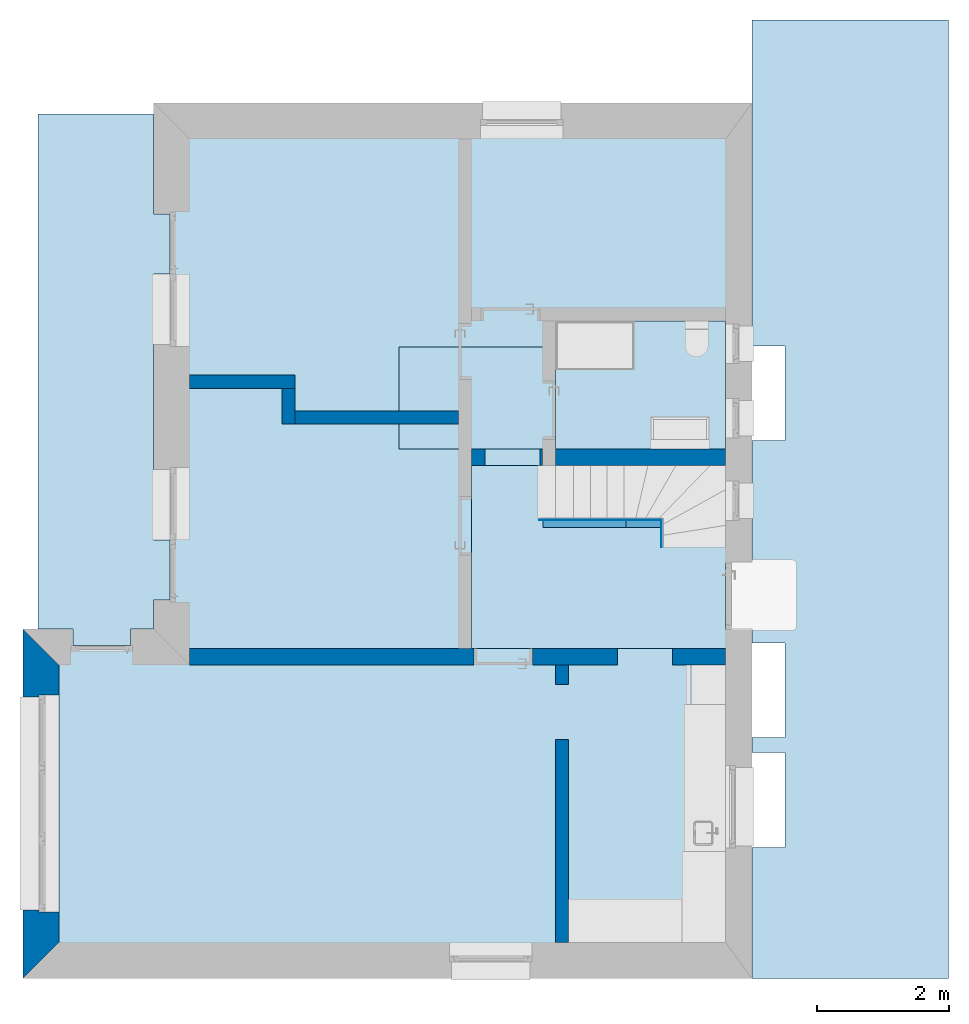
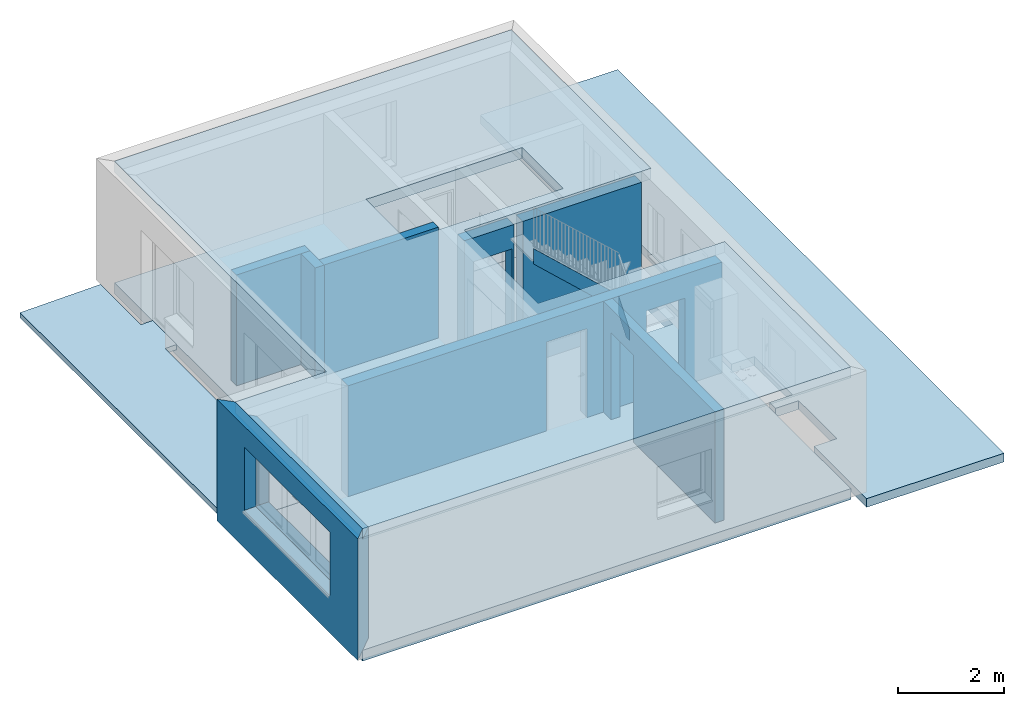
# One storey, part 1 of 18: 9 walls, 5 slabs, 2 members, 8 openings, 1 element without a shape of its own.
"""IFC2X3 building model written with IfcOpenShell, lengths in metres."""

from ifc_helpers import new_model, entity, si_unit, converted_unit, derived_unit, direction, frame, frame_2d, origin, place, context, subcontext, project, spatial, polyline, rectangle, outline, extrude, boolean, clip, halfspace, bounded_halfspace, faceted_brep, material, layer, layer_set, layer_usage, type_object, element, aggregate, save


model = new_model("IFC2X3")

# Units and contexts
model_context = context("Model", 3, precision=1e-05, world=origin(), true_north=direction((6.123233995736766e-17, 1.0)))
body_context = subcontext(model_context, "Body", "Model", "MODEL_VIEW")
ifc_project = project(units=[si_unit("LENGTHUNIT", "METRE"), si_unit("AREAUNIT", "SQUARE_METRE"), si_unit("VOLUMEUNIT", "CUBIC_METRE"), si_unit("POWERUNIT", "WATT"), derived_unit("USERDEFINED", [(si_unit("MASSUNIT", "GRAM", prefix="KILO"), 1), (si_unit("TIMEUNIT", "SECOND"), -3)]), derived_unit("THERMALRESISTANCEUNIT", [(si_unit("MASSUNIT", "GRAM", prefix="KILO"), -1), (si_unit("TIMEUNIT", "SECOND"), 3), (si_unit("THERMODYNAMICTEMPERATUREUNIT", "KELVIN"), 1)]), derived_unit("USERDEFINED", [(si_unit("MASSUNIT", "GRAM", prefix="KILO"), 1), (si_unit("TIMEUNIT", "SECOND"), -2), (si_unit("THERMODYNAMICTEMPERATUREUNIT", "KELVIN"), -1)]), derived_unit("THERMALTRANSMITTANCEUNIT", [(si_unit("MASSUNIT", "GRAM", prefix="KILO"), 1), (si_unit("TIMEUNIT", "SECOND"), -3), (si_unit("THERMODYNAMICTEMPERATUREUNIT", "KELVIN"), -1)]), converted_unit("PLANEANGLEUNIT", "DEGREE", entity("IfcPlaneAngleMeasure", 0.017453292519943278), si_unit("PLANEANGLEUNIT", "RADIAN"), dimensions=[0, 0, 0, 0, 0, 0, 0]), derived_unit("MOMENTOFINERTIAUNIT", [(si_unit("LENGTHUNIT", "METRE"), 4)])], contexts=[model_context])

# Site, building, storey
site_placement = place(None, origin())
site = spatial("IfcSite", under=ifc_project, at=site_placement, Name="Default", CompositionType="ELEMENT")
building_placement = place(site_placement, origin())
building = spatial("IfcBuilding", under=site, at=building_placement, CompositionType="ELEMENT")
storey_placement = place(building_placement, frame((0.0, 0.0, 2.6)))
storey = spatial("IfcBuildingStorey", under=building, at=storey_placement, Name="Erdgeschoss", CompositionType="ELEMENT", Elevation=2.6)

# Stair, members
type_product = type_object("IfcTypeProduct", Name="Zusammengebaute Treppe:Wangen Stahl - Stufen Holz - 1 Stockwerkstrennlinie")
stair_placement = place(storey_placement, origin())
stair = element("IfcStair", 1, at=stair_placement, inside=storey, type_object=type_product, Name="Zusammengebaute Treppe:Treppe", ObjectType="Zusammengebaute Treppe:Wangen Stahl - Stufen Holz - 1 Stockwerkstrennlinie", ShapeType="NOTDEFINED")
ifc_material_1 = material(Name="<Unnamed>")
member_type = type_object("IfcMemberType", Name="Wange:Metall 10 x 260", PredefinedType="STRINGER")
member_1_placement = place(stair_placement, frame((37.24672000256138, 21.842272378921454, 0.0)))
member_1 = element("IfcMember", 2, at=member_1_placement, type_object=member_type, material=ifc_material_1, Name="Zusammengebaute Treppe:Treppe:2594539 Stringer 1", ObjectType="Wange:Metall 10 x 260", context=body_context, shape_type="SweptSolid", body=[
    extrude(outline(polyline([(-0.19037166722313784, -0.2782247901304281), (-0.058513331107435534, -0.2782247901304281), (0.21962833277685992, 0.07886854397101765), (0.21962833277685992, 0.501980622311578), (-0.19037166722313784, -0.024399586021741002), (-0.19037166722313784, -0.2782247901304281)])), frame((0.0, 0.1903716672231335, 0.2782247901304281), z_axis=(1.0, 0.0, 0.0), x_axis=(0.0, 1.0, 0.0)), (0.0, 0.0, 1.0), 0.010000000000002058),
])
member_2_placement = place(stair_placement, frame((35.398754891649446, 22.252272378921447, 0.4384040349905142)))
member_2 = element("IfcMember", 3, at=member_2_placement, type_object=member_type, material=ifc_material_1, Name="Zusammengebaute Treppe:Treppe:2594539 Stringer 2", ObjectType="Wange:Metall 10 x 260", context=body_context, shape_type="SweptSolid", body=[
    extrude(outline(polyline([(-1.386420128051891, -0.12999999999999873), (1.1456817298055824, -0.12999999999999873), (1.3864201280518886, 0.13000000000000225), (-1.1456817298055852, 0.13000000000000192), (-1.386420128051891, -0.12999999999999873)])), frame((0.928982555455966, 0.0, 1.0373293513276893), z_axis=(0.0, 1.0, 0.0), x_axis=(-0.7337639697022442, 0.0, 0.6794044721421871)), (0.0, 0.0, 1.0), 0.010000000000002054),
])
aggregate(stair, [member_1, member_2])

# Slab, openings
ifc_material_2 = material(Name="Fußboden - Parkett Roteiche")
ifc_layer_1 = layer(ifc_material_2, 0.05)
ifc_material_3 = material(Name="Ortbeton - bewehrt")
ifc_layer_2 = layer(ifc_material_3, 0.2)
ifc_layer_set_1 = layer_set([ifc_layer_1, ifc_layer_2], Name="Geschossdecke:Geschossdecke 200 + 50")
ifc_layer_usage_1 = layer_usage(ifc_layer_set_1, "AXIS3", "POSITIVE", 0.0)
slab_type_1 = type_object("IfcSlabType", Name="Geschossdecke:Geschossdecke 200 + 50", PredefinedType="FLOOR", material=ifc_layer_set_1)
slab_1_placement = place(storey_placement, frame((27.800841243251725, 15.542272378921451, -0.25)))
slab_1 = element("IfcSlab", 4, at=slab_1_placement, inside=storey, type_object=slab_type_1, material=ifc_layer_usage_1, Name="Geschossdecke:Geschossdecke 200 + 50", ObjectType="Geschossdecke:Geschossdecke 200 + 50", PredefinedType="FLOOR", context=body_context, shape_type="SweptSolid", body=[
    extrude(outline(polyline([(3.327060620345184, 6.400000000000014), (-5.312939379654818, 6.3999999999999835), (-5.3129393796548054, -0.33500000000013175), (-5.112939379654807, -0.33500000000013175), (-5.112939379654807, -1.3450000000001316), (-5.31293937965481, -1.3450000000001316), (-5.312939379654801, -6.400000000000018), (5.31293937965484, -6.3999999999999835), (5.312939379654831, -1.5899999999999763), (3.327060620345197, -1.589999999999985), (3.327060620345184, 6.400000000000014)])), frame((5.31293937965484, 6.400000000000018, 0.25), z_axis=(0.0, 0.0, -1.0), x_axis=(-1.0, 0.0, 0.0)), (0.0, 0.0, 1.0), 0.25),
])
opening_1_placement = place(slab_1_placement, origin())
element("IfcOpeningElement", 5, at=opening_1_placement, cuts=slab_1, Name="Geschossdecke:Geschossdecke 200 + 50", ObjectType="Opening", context=body_context, shape_type="SweptSolid", body=[
    extrude(outline(polyline([(-2.3429393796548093, 0.19999999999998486), (-2.3429393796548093, 1.1399999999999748), (-5.1129393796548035, 1.1399999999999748), (-5.1129393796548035, -0.04000000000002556), (-4.142939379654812, -0.04000000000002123), (-4.142939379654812, 0.19999999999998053), (-2.3429393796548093, 0.19999999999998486)])), frame((5.31293937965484, 6.400000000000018, 0.25), z_axis=(0.0, 0.0, -1.0), x_axis=(-1.0, 0.0, 0.0)), (0.0, 0.0, 1.0), 0.25),
])
opening_2_placement = place(slab_1_placement, origin())
element("IfcOpeningElement", 6, at=opening_2_placement, cuts=slab_1, Name="Geschossdecke:Geschossdecke 200 + 50", ObjectType="Opening", context=body_context, shape_type="SweptSolid", body=[
    extrude(rectangle(XDim=1.9500000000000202, YDim=2.582965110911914, at=frame_2d((-3.8214568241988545, 2.3649999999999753), x_axis=(0.0, -1.0))), frame((5.31293937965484, 6.400000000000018, 0.25), z_axis=(0.0, 0.0, -1.0), x_axis=(-1.0, 0.0, 0.0)), (0.0, 0.0, 1.0), 0.25),
])

# Slab, opening
ifc_layer_usage_2 = layer_usage(ifc_layer_set_1, "AXIS3", "POSITIVE", 0.0)
slab_2_placement = place(storey_placement, origin())
slab_2 = element("IfcSlab", 7, at=slab_2_placement, inside=storey, type_object=slab_type_1, material=ifc_layer_usage_2, Name="Geschossdecke:Geschossdecke 200 + 50", ObjectType="Geschossdecke:Geschossdecke 200 + 50", PredefinedType="FLOOR", context=body_context, shape_type="CSG", body=[
    boolean("DIFFERENCE", extrude(outline(polyline([(-5.981999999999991, -5.961109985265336), (-1.1719999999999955, -5.961109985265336), (-1.1719999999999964, -3.9752312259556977), (6.818000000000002, -3.9752312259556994), (6.817999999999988, 4.664768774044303), (1.5579999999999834, 4.664768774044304), (1.557999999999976, 0.6068036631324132), (-1.222000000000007, 0.6068036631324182), (-1.2219999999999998, 4.664768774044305), (-5.982000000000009, 4.664768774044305), (-5.981999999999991, -5.961109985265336)])), frame((33.76195122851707, 21.52427237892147, 2.800000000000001), z_axis=(0.0, 0.0, -1.0), x_axis=(0.0, 1.0, 0.0)), (0.0, 0.0, 1.0), 0.24999999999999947), extrude(rectangle(XDim=1.5500000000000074, YDim=3.3999999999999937, at=frame_2d((2.1649348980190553e-15, -2.220446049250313e-15), x_axis=(1.0, 0.0))), frame((34.96526057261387, 24.10727237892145, 2.5500000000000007), z_axis=(0.0, 0.0, 1.0), x_axis=(0.0, 1.0, 0.0)), (0.0, 0.0, 1.0), 0.24999999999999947)),
])
opening_3_placement = place(slab_2_placement, origin())
element("IfcOpeningElement", 8, at=opening_3_placement, cuts=slab_2, Name="Geschossdecke:Geschossdecke 200 + 50", ObjectType="Opening", context=body_context, shape_type="SweptSolid", body=[
    extrude(rectangle(XDim=1.5500000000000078, YDim=3.3999999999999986, at=frame_2d((34.96526057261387, 24.10727237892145), x_axis=(0.0, -1.0))), frame((0.0, 0.0, 2.8000000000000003)), (0.0, 0.0, -1.0), 0.24999999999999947),
])

# Slabs
ifc_material_4 = material(Name="Fußboden - Granit grau 500 x 500")
ifc_layer_3 = layer(ifc_material_4, 0.04)
ifc_layer_4 = layer(ifc_material_3, 0.08)
ifc_layer_set_2 = layer_set([ifc_layer_3, ifc_layer_4], Name="Geschossdecke:STB & Granite 120")
ifc_layer_usage_3 = layer_usage(ifc_layer_set_2, "AXIS3", "POSITIVE", 0.0)
slab_type_2 = type_object("IfcSlabType", Name="Geschossdecke:STB & Granite 120", PredefinedType="FLOOR", material=ifc_layer_set_2)
slab_3_placement = place(storey_placement, origin())
element("IfcSlab", 9, at=slab_3_placement, inside=storey, type_object=slab_type_2, material=ifc_layer_usage_3, Name="Geschossdecke:STB & Granite 120", ObjectType="Geschossdecke:STB & Granite 120", PredefinedType="FLOOR", context=body_context, shape_type="Clipping", body=[
    clip(clip(extrude(outline(polyline([(-2.631838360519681, -1.4007099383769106), (5.192868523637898, -1.4007099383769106), (5.192868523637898, 0.35324322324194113), (3.6681616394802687, 0.3532432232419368), (3.6681616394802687, 0.603298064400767), (2.758161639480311, 0.603298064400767), (2.758161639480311, 0.3532432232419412), (-1.2818383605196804, 0.3532432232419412), (-1.2818383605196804, 0.6032980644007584), (-2.191838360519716, 0.6032980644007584), (-2.191838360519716, 0.3532432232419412), (-2.631838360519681, 0.3532432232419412), (-2.631838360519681, 0.0072885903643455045), (-2.8818383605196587, 0.0072885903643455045), (-2.8818383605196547, -0.8729044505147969), (-2.631838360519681, -0.8729044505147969), (-2.631838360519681, -1.4007099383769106)])), frame((29.183554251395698, 23.234110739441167, -0.007397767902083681), z_axis=(0.020942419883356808, 0.0, -0.9997806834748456), x_axis=(0.0, 1.0, 0.0)), (0.0, -0.020942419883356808, 0.9997806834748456), 0.12005265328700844), halfspace(frame((27.78315151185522, 25.876634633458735, -0.1567583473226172), z_axis=(0.020942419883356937, 0.0, -0.9997806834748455), x_axis=(0.9997806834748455, 0.0, 0.020942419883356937)), False)), halfspace(frame((27.78315151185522, 25.876634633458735, -0.03673202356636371), z_axis=(-0.020942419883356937, 0.0, 0.9997806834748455), x_axis=(-0.9997806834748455, 0.0, -0.020942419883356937)), False)),
])
ifc_material_5 = material(Name="Mauerwerk - Kalksandstein")
ifc_layer_5 = layer(ifc_material_5, 0.2)
ifc_layer_set_3 = layer_set([ifc_layer_5], Name="Geschossdecke:FB Hof")
ifc_layer_usage_4 = layer_usage(ifc_layer_set_3, "AXIS3", "POSITIVE", 0.0)
slab_type_3 = type_object("IfcSlabType", Name="Geschossdecke:FB Hof", PredefinedType="FLOOR", material=ifc_layer_set_3)
slab_4_placement = place(storey_placement, origin())
element("IfcSlab", 10, at=slab_4_placement, inside=storey, type_object=slab_type_3, material=ifc_layer_usage_4, Name="Geschossdecke:FB Hof", ObjectType="Geschossdecke:FB Hof", PredefinedType="FLOOR", context=body_context, shape_type="SweptSolid", body=[
    extrude(outline(polyline([(-5.815, -0.5611437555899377), (-3.825000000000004, -0.5611437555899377), (-3.8250000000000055, -0.06114375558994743), (-2.3850000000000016, -0.06114375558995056), (-2.3850000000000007, -0.5611437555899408), (-2.1550000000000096, -0.5611437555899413), (-2.1550000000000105, -0.06114375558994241), (-0.7150000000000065, -0.06114375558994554), (-0.7150000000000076, -0.5611437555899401), (2.3549999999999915, -0.5611437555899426), (2.354999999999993, -0.06114375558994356), (3.7949999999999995, -0.06114375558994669), (3.794999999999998, -0.5611437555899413), (8.745, -0.5611437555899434), (8.744999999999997, 2.428006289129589), (-5.815000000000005, 2.428006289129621), (-5.815, -0.5611437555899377)])), frame((39.187863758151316, 21.10727237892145, -0.1492131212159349), z_axis=(0.0, 0.0, -1.0), x_axis=(0.0, 1.0, 0.0)), (0.0, 0.0, 1.0), 0.2),
])
ifc_material_6 = material(Name="Fußboden - Fliese Travertin 500 x 500")
ifc_layer_6 = layer(ifc_material_6, 0.05)
ifc_layer_7 = layer(ifc_material_3, 0.2)
ifc_layer_set_4 = layer_set([ifc_layer_6, ifc_layer_7], Name="Geschossdecke:Geschossdecke 200 + 50 Bad")
ifc_layer_usage_5 = layer_usage(ifc_layer_set_4, "AXIS3", "POSITIVE", 0.0)
slab_type_4 = type_object("IfcSlabType", Name="Geschossdecke:Geschossdecke 200 + 50 Bad", PredefinedType="FLOOR", material=ifc_layer_set_4)
slab_5_placement = place(storey_placement, origin())
element("IfcSlab", 11, at=slab_5_placement, inside=storey, type_object=slab_type_4, material=ifc_layer_usage_5, Name="Geschossdecke:Geschossdecke 200 + 50 Bad", ObjectType="Geschossdecke:Geschossdecke 200 + 50 Bad", PredefinedType="FLOOR", context=body_context, shape_type="SweptSolid", body=[
    extrude(rectangle(XDim=1.9500000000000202, YDim=2.5829651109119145, at=frame_2d((-2.1649348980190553e-15, 0.0), x_axis=(1.0, 0.0))), frame((36.93523744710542, 24.307272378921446, 0.0), z_axis=(0.0, 0.0, -1.0), x_axis=(0.0, 1.0, 0.0)), (0.0, 0.0, 1.0), 0.25),
])

# Wall, opening
ifc_material_7 = material(Name="Dämmung - hart")
ifc_layer_8 = layer(ifc_material_7, 0.24999999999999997)
ifc_material_8 = material(Name="Mauerwerk - Ziegel")
ifc_layer_9 = layer(ifc_material_8, 0.29999999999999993)
ifc_layer_set_5 = layer_set([ifc_layer_8, ifc_layer_9], Name="Basiswand:Ziegel+WD hart 300+250")
ifc_layer_usage_6 = layer_usage(ifc_layer_set_5, "AXIS2", "POSITIVE", -0.27499999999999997)
wall_type_1 = type_object("IfcWallType", Name="Basiswand:Ziegel+WD hart 300+250", PredefinedType="STANDARD", material=ifc_layer_set_5)
wall_1_placement = place(storey_placement, frame((27.825841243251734, 20.60227237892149, 0.0), z_axis=(0.0, 0.0, 1.0), x_axis=(0.0, -1.0, 0.0)))
wall_1 = element("IfcWallStandardCase", 12, at=wall_1_placement, inside=storey, type_object=wall_type_1, material=ifc_layer_usage_6, Name="Basiswand:Ziegel+WD hart 300+250", ObjectType="Basiswand:Ziegel+WD hart 300+250", context=body_context, shape_type="Clipping", body=[
    clip(clip(extrude(outline(polyline([(5.310000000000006, -0.27500000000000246), (4.760000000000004, 0.2749999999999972), (0.5500000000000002, 0.274999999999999), (0.0, -0.27500000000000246), (5.310000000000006, -0.27500000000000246)])), origin(), (0.0, 0.0, 1.0), 2.8000000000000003), bounded_halfspace(frame((0.25000000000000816, -0.025000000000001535, 2.5500000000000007), z_axis=(0.0, 0.0, -1.0), x_axis=(-1.0, 0.0, 0.0)), True, frame((0.25000000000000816, -0.025000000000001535, 2.5500000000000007), z_axis=(0.0, 0.0, -1.0), x_axis=(-1.0, 0.0, 0.0)), polyline([(0.0, 0.0), (-0.29999999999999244, 0.30000000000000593), (-4.509999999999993, 0.29999999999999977), (-4.809999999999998, 0.0), (0.0, 0.0)]))), bounded_halfspace(frame((5.060000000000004, -0.025000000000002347, 2.5500000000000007), z_axis=(0.0, -1.0, 0.0), x_axis=(0.0, 0.0, 1.0)), True, frame((5.060000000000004, -0.025000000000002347, 2.5500000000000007), z_axis=(0.0, -1.0, 0.0), x_axis=(0.0, 0.0, 1.0)), polyline([(0.0, 0.0), (0.24999999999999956, 0.0), (0.24999999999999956, 4.810000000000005), (0.0, 4.810000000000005), (0.0, 0.0)]))),
])
opening_4_placement = place(wall_1_placement, frame((20.602272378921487, -27.825841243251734, 0.8500000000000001), z_axis=(0.0, 0.0, 1.0), x_axis=(0.0, 1.0, 0.0)))
element("IfcOpeningElement", 13, at=opening_4_placement, cuts=wall_1, Name="Basiswand:Ziegel+WD hart 300+250", ObjectType="Opening", context=body_context, shape_type="Brep", body=[
    faceted_brep([(27.8008412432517, 16.29977237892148, 1.4999999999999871), (28.100841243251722, 16.29977237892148, 1.4999999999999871), (28.100841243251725, 19.59977237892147, 1.4999999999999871), (27.800841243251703, 19.59977237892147, 1.4999999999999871), (27.8008412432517, 16.29977237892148, 0.0), (27.800841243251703, 19.59977237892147, 0.0), (28.100841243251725, 19.59977237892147, 0.0), (28.100841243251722, 16.29977237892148, 0.0), (27.800841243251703, 19.569772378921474, 1.4700000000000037), (27.8008412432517, 16.329772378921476, 1.4700000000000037), (27.8008412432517, 16.329772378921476, 0.020000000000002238), (27.800841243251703, 19.569772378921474, 0.020000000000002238), (27.53084124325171, 19.56977237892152, 1.469999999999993), (27.53084124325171, 19.56977237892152, 0.009999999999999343), (27.530841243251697, 16.32977237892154, 0.009999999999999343), (27.5308412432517, 16.32977237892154, 1.469999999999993)], [[[0, 1, 2, 3]], [[4, 5, 6, 7]], [[0, 4, 7, 1]], [[1, 7, 6, 2]], [[2, 6, 5, 3]], [[3, 5, 4, 0], [8, 9, 10, 11]], [[12, 13, 14, 15]], [[12, 8, 11, 13]], [[13, 11, 10, 14]], [[14, 10, 9, 15]], [[15, 9, 8, 12]]]),
])

ifc_layer_10 = layer(ifc_material_8, 0.2)
ifc_layer_set_6 = layer_set([ifc_layer_10], Name="Basiswand:Ziegel 200")
ifc_layer_usage_7 = layer_usage(ifc_layer_set_6, "AXIS2", "NEGATIVE", 0.1)
wall_type_2 = type_object("IfcWallType", Name="Basiswand:Ziegel 200", PredefinedType="STANDARD", material=ifc_layer_set_6)
wall_2_placement = place(storey_placement, frame((35.743754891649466, 20.05227237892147, 0.0), z_axis=(0.0, 0.0, 1.0), x_axis=(0.0, -1.0, 0.0)))
wall_2 = element("IfcWallStandardCase", 14, at=wall_2_placement, inside=storey, type_object=wall_type_2, material=ifc_layer_usage_7, Name="Basiswand:Ziegel 200", ObjectType="Basiswand:Ziegel 200", context=body_context, shape_type="SweptSolid", body=[
    extrude(rectangle(XDim=4.210000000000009, YDim=0.19999999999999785, at=frame_2d((2.1050000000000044, -6.938893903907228e-18), x_axis=(-1.0, 0.0))), origin(), (0.0, 0.0, 1.0), 2.5500000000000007),
])
opening_5_placement = place(wall_2_placement, frame((20.052272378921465, -35.743754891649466, 0.0), z_axis=(0.0, 0.0, 1.0), x_axis=(0.0, 1.0, 0.0)))
element("IfcOpeningElement", 15, at=opening_5_placement, cuts=wall_2, Name="Basiswand:Ziegel 200", ObjectType="Opening", context=body_context, shape_type="SweptSolid", body=[
    extrude(rectangle(XDim=2.179999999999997, YDim=0.8399999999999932, at=frame_2d((1.0824674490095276e-15, -1.1102230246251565e-16), x_axis=(0.0, 1.0))), frame((34.119754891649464, 19.342272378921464, 0.9100000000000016), z_axis=(1.0, 0.0, 0.0), x_axis=(0.0, 1.0, 0.0)), (0.0, 0.0, 1.0), 3.048),
])

# Walls
ifc_layer_usage_8 = layer_usage(ifc_layer_set_6, "AXIS2", "POSITIVE", -0.1)
wall_3_placement = place(storey_placement, frame((30.08672000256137, 24.356634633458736, 0.0)))
element("IfcWallStandardCase", 16, at=wall_3_placement, inside=storey, type_object=wall_type_2, material=ifc_layer_usage_8, Name="Basiswand:Ziegel 200", ObjectType="Basiswand:Ziegel 200", context=body_context, shape_type="SweptSolid", body=[
    extrude(rectangle(XDim=1.6000000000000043, YDim=0.19999999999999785, at=frame_2d((0.8000000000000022, 2.983724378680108e-16), x_axis=(-1.0, 0.0))), origin(), (0.0, 0.0, 1.0), 2.5500000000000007),
])
ifc_layer_usage_9 = layer_usage(ifc_layer_set_6, "AXIS2", "NEGATIVE", 0.1)
wall_4_placement = place(storey_placement, frame((31.586720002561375, 24.256634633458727, 0.0), z_axis=(0.0, 0.0, 1.0), x_axis=(0.0, -1.0, 0.0)))
element("IfcWallStandardCase", 17, at=wall_4_placement, inside=storey, type_object=wall_type_2, material=ifc_layer_usage_9, Name="Basiswand:Ziegel 200", ObjectType="Basiswand:Ziegel 200", context=body_context, shape_type="SweptSolid", body=[
    extrude(rectangle(XDim=0.5400000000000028, YDim=0.19999999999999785, at=frame_2d((0.2700000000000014, 0.0), x_axis=(-1.0, 0.0))), origin(), (0.0, 0.0, 1.0), 2.5500000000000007),
])
ifc_layer_usage_10 = layer_usage(ifc_layer_set_6, "AXIS2", "NEGATIVE", 0.1)
wall_5_placement = place(storey_placement, frame((31.686720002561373, 23.81663463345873, 0.0)))
element("IfcWallStandardCase", 18, at=wall_5_placement, inside=storey, type_object=wall_type_2, material=ifc_layer_usage_10, Name="Basiswand:Ziegel 200", ObjectType="Basiswand:Ziegel 200", context=body_context, shape_type="SweptSolid", body=[
    extrude(rectangle(XDim=2.482034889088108, YDim=0.19999999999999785, at=frame_2d((1.241017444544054, -2.7755575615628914e-17), x_axis=(-1.0, 0.0))), origin(), (0.0, 0.0, 1.0), 2.5500000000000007),
])

# Wall, openings
ifc_layer_11 = layer(ifc_material_8, 0.24999999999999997)
ifc_layer_set_7 = layer_set([ifc_layer_11], Name="Basiswand:Ziegel 250")
ifc_layer_usage_11 = layer_usage(ifc_layer_set_7, "AXIS2", "POSITIVE", -0.12499999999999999)
wall_type_3 = type_object("IfcWallType", Name="Basiswand:Ziegel 250", PredefinedType="STANDARD", material=ifc_layer_set_7)
wall_6_placement = place(storey_placement, frame((30.086720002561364, 20.177272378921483, 0.0)))
wall_6 = element("IfcWallStandardCase", 19, at=wall_6_placement, inside=storey, type_object=wall_type_3, material=ifc_layer_usage_11, Name="Basiswand:Ziegel 250", ObjectType="Basiswand:Ziegel 250", context=body_context, shape_type="SweptSolid", body=[
    extrude(rectangle(XDim=8.140000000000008, YDim=0.2500000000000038, at=frame_2d((4.070000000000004, 2.3592239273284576e-16), x_axis=(-1.0, 0.0))), origin(), (0.0, 0.0, 1.0), 2.5500000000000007),
])
opening_6_placement = place(wall_6_placement, frame((5.20703488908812, 0.12499999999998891, -0.1800000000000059)))
element("IfcOpeningElement", 20, at=opening_6_placement, cuts=wall_6, Name="TU DF 1 - Rahmenstock flächenbündig:DL - 800 x 2000:1", ObjectType="Opening", context=body_context, shape_type="SweptSolid", body=[
    extrude(rectangle(XDim=2.2249999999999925, YDim=0.8899999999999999, at=frame_2d((1.1124999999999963, 0.44500000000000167), x_axis=(-1.0, 0.0))), frame((0.0, 0.0, 0.0), z_axis=(0.0, -1.0, 0.0), x_axis=(0.0, 0.0, 1.0)), (0.0, 0.0, 1.0), 0.24999999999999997),
])
opening_7_placement = place(wall_6_placement, frame((-30.08672000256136, -20.17727237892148, 0.0)))
element("IfcOpeningElement", 21, at=opening_7_placement, cuts=wall_6, Name="Basiswand:Ziegel 250", ObjectType="Opening", context=body_context, shape_type="SweptSolid", body=[
    extrude(rectangle(XDim=2.179999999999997, YDim=0.8399999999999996, at=frame_2d((0.0, -1.1102230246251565e-16), x_axis=(0.0, 1.0))), frame((37.003754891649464, 18.52827237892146, 0.9100000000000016), z_axis=(0.0, 1.0, 0.0), x_axis=(-1.0, 0.0, 0.0)), (0.0, 0.0, 1.0), 3.047999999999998),
])

# Wall, opening
ifc_layer_usage_12 = layer_usage(ifc_layer_set_7, "AXIS2", "NEGATIVE", 0.12499999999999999)
wall_7_placement = place(storey_placement, frame((35.443754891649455, 23.207272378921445, 0.0), z_axis=(0.0, 0.0, 1.0), x_axis=(-1.0, 0.0, 0.0)))
wall_7 = element("IfcWallStandardCase", 22, at=wall_7_placement, inside=storey, type_object=wall_type_3, material=ifc_layer_usage_12, Name="Basiswand:Ziegel 250", ObjectType="Basiswand:Ziegel 250", context=body_context, shape_type="SweptSolid", body=[
    extrude(rectangle(XDim=1.0749999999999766, YDim=0.2500000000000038, at=frame_2d((0.5374999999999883, -2.636779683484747e-16), x_axis=(-1.0, 0.0))), origin(), (0.0, 0.0, 1.0), 2.5500000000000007),
])
opening_8_placement = place(wall_7_placement, frame((35.443754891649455, 23.207272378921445, 0.0), z_axis=(0.0, 0.0, 1.0), x_axis=(-1.0, 0.0, 0.0)))
element("IfcOpeningElement", 23, at=opening_8_placement, cuts=wall_7, Name="Basiswand:Ziegel 250", ObjectType="Opening", context=body_context, shape_type="SweptSolid", body=[
    extrude(rectangle(XDim=2.179999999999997, YDim=0.8399999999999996, at=frame_2d((0.0, -1.1102230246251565e-16), x_axis=(0.0, 1.0))), frame((34.988754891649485, 24.856272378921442, 0.9100000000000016), z_axis=(0.0, -1.0, 0.0), x_axis=(1.0, 0.0, 0.0)), (0.0, 0.0, 1.0), 3.048),
])

# Walls
ifc_layer_usage_13 = layer_usage(ifc_layer_set_7, "AXIS2", "NEGATIVE", 0.12499999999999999)
wall_8_placement = place(storey_placement, frame((35.64375489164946, 23.207272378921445, 0.0)))
element("IfcWallStandardCase", 24, at=wall_8_placement, inside=storey, type_object=wall_type_3, material=ifc_layer_usage_13, Name="Basiswand:Ziegel 250", ObjectType="Basiswand:Ziegel 250", context=body_context, shape_type="SweptSolid", body=[
    extrude(rectangle(XDim=2.5829651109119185, YDim=0.2500000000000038, at=frame_2d((1.2914825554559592, 1.6653345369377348e-16), x_axis=(-1.0, 0.0))), origin(), (0.0, 0.0, 1.0), 2.5500000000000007),
])
ifc_layer_12 = layer(ifc_material_8, 0.12)
ifc_layer_set_8 = layer_set([ifc_layer_12], Name="Basiswand:Ziegel 120")
ifc_layer_usage_14 = layer_usage(ifc_layer_set_8, "AXIS2", "NEGATIVE", 0.06)
wall_type_4 = type_object("IfcWallType", Name="Basiswand:Ziegel 120", PredefinedType="STANDARD", material=ifc_layer_set_8)
wall_9_placement = place(storey_placement, frame((35.456720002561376, 22.202272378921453, -1.6250000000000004)))
element("IfcWallStandardCase", 25, at=wall_9_placement, inside=storey, type_object=wall_type_4, material=ifc_layer_usage_14, Name="Basiswand:Ziegel 120", ObjectType="Basiswand:Ziegel 120", context=body_context, shape_type="Clipping", body=[
    clip(clip(extrude(rectangle(XDim=1.8000000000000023, YDim=0.1199999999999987, at=frame_2d((0.9000000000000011, 0.0), x_axis=(-1.0, 0.0))), origin(), (0.0, 0.0, 1.0), 2.5150560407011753), halfspace(frame((1.6300000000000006, -0.05999999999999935, 0.0), z_axis=(-0.6594981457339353, 0.0, -0.7517061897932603), x_axis=(0.0, 1.0, 0.0)), False)), halfspace(frame((1.259999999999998, -0.06000000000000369, 2.5150560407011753), z_axis=(0.7630378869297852, 0.0, 0.6463537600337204), x_axis=(0.0, 1.0, 0.0)), False)),
])

save(model, "model.ifc")
